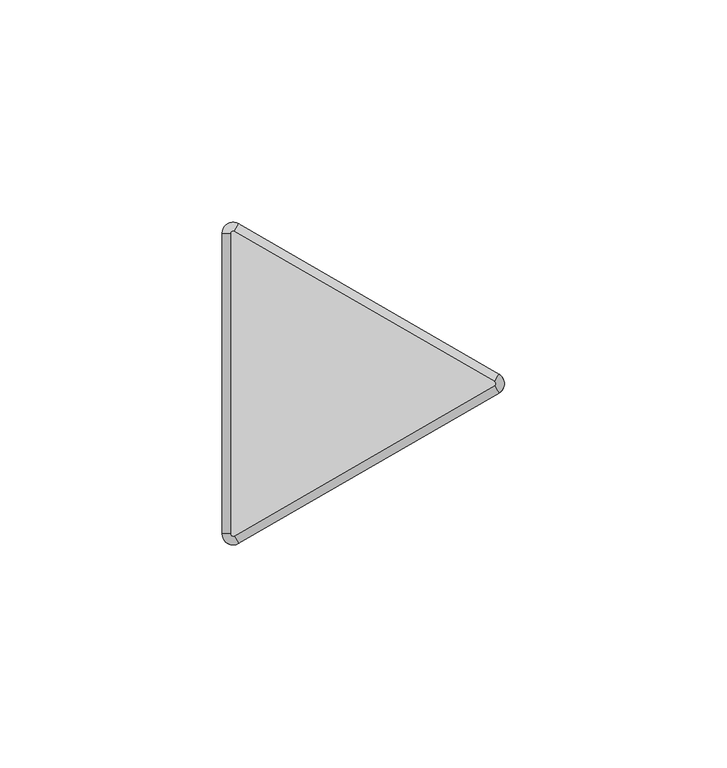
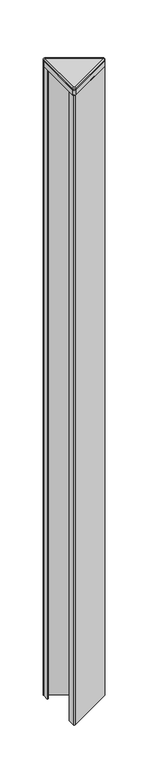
"""IFC4 building model written with IfcOpenShell, lengths in millimetres: furniture geometry, Steelcase - Answer Solution - Panel - 120deg Change-of-Height Trim - Thin : Y Corner - 36H for 66H App."""

import ifcopenshell
import ifcopenshell.guid

model = None  # the IFC model being written
_history = None  # IfcOwnerHistory: only IFC2X3 demands one
_inside = {}  # id of a spatial element -> (the spatial element, [elements in it])
_under = {}  # id of a project, library or spatial element -> (it, [spatial elements below it])
_declared = {}  # id of a project -> (the project, [libraries it declares])
_typed = {}  # id of a type object -> (the type object, [elements of that type])
_made_of = {}  # id of a material, layer set ... -> (it, [elements and type objects made of it])


def new_model(schema):
    """Start an empty IFC model of exactly this schema.

    Asked for "IFC4X3", IfcOpenShell would pick the latest addendum, in which some entities
    have other attributes; the version numbers below select the first issue.
    IFC2X3 requires an IfcOwnerHistory on every rooted entity: one is made here for all.
    """
    global model, _history
    if schema == "IFC4X3":
        model = ifcopenshell.file(schema_version=(4, 3, 0, 0))
    else:
        model = ifcopenshell.file(schema=schema)
    _inside.clear()
    _under.clear()
    _declared.clear()
    _typed.clear()
    _made_of.clear()
    _history = None
    if model.schema == "IFC2X3":
        org = make("IfcOrganization", Name="unknown")
        user = make(
            "IfcPersonAndOrganization",
            ThePerson=make("IfcPerson", FamilyName="unknown"),
            TheOrganization=org,
        )
        app = make(
            "IfcApplication",
            ApplicationDeveloper=org,
            Version="unknown",
            ApplicationFullName="unknown",
            ApplicationIdentifier="unknown",
        )
        _history = make(
            "IfcOwnerHistory",
            OwningUser=user,
            OwningApplication=app,
            ChangeAction="ADDED",
            CreationDate=0,
        )
    return model


def make(cls, **values):
    """One entity of the class cls with the attributes given. An attribute that is None is left unset."""
    return model.create_entity(
        cls, **{name: value for name, value in values.items() if value is not None}
    )


def rooted(cls, **values):
    """An entity with a GlobalId (a new one), such as an element, a storey or a relation."""
    return make(cls, GlobalId=ifcopenshell.guid.new(), OwnerHistory=_history, **values)


def si_unit(unit_type, name, prefix=None):
    """IfcSIUnit, for example si_unit("LENGTHUNIT", "METRE", prefix="MILLI")."""
    return make("IfcSIUnit", UnitType=unit_type, Prefix=prefix, Name=name)


def assignment(units):
    """IfcUnitAssignment: the units of a project."""
    return None if units is None else make("IfcUnitAssignment", Units=units)


def point(xyz):
    """IfcCartesianPoint."""
    return None if xyz is None else make("IfcCartesianPoint", Coordinates=xyz)


def direction(xyz):
    """IfcDirection."""
    return None if xyz is None else make("IfcDirection", DirectionRatios=xyz)


def frame(location, z_axis=None, x_axis=None):
    """IfcAxis2Placement3D, a coordinate frame: its origin and axes. An axis left out is left unset."""
    return make(
        "IfcAxis2Placement3D",
        Location=point(location),
        Axis=direction(z_axis),
        RefDirection=direction(x_axis),
    )


def frame_2d(location, x_axis=None):
    """IfcAxis2Placement2D, a coordinate frame in the plane: its origin and x axis."""
    return make(
        "IfcAxis2Placement2D", Location=point(location), RefDirection=direction(x_axis)
    )


def origin():
    """The frame at (0, 0, 0) with its axes left unset."""
    return frame((0.0, 0.0, 0.0))


def place(relative_to, where):
    """IfcLocalPlacement: puts the frame where relative to a parent placement (None: the world)."""
    return make(
        "IfcLocalPlacement", PlacementRelTo=relative_to, RelativePlacement=where
    )


def context(
    kind, dimensions, precision=None, world=None, true_north=None, identifier=None
):
    """IfcGeometricRepresentationContext, for example the 3D "Model" context."""
    return make(
        "IfcGeometricRepresentationContext",
        ContextIdentifier=identifier,
        ContextType=kind,
        CoordinateSpaceDimension=dimensions,
        Precision=precision,
        WorldCoordinateSystem=world,
        TrueNorth=true_north,
    )


def project(units=None, contexts=None):
    """IfcProject with its units and contexts."""
    return rooted(
        "IfcProject",
        Name="project",
        RepresentationContexts=contexts,
        UnitsInContext=assignment(units),
    )


def spatial(cls, under=None, at=None, **own):
    """A site, building, storey or space (cls), placed at a placement, below another one or the project."""
    s = rooted(cls, ObjectPlacement=at, **own)
    if under is not None:
        _under.setdefault(under.id(), (under, []))[1].append(s)
    return s


def polyline(points):
    """IfcPolyline through the points."""
    return make("IfcPolyline", Points=[point(p) for p in points])


def circle_curve(where, radius):
    """IfcCircle in the frame where."""
    return make("IfcCircle", Position=where, Radius=radius)


def ellipse_curve(where, semi_axis1, semi_axis2):
    """IfcEllipse in the frame where."""
    return make(
        "IfcEllipse", Position=where, SemiAxis1=semi_axis1, SemiAxis2=semi_axis2
    )


def trimmed(basis, trim1, trim2, sense, master):
    """IfcTrimmedCurve: the piece of a basis curve between two trims."""
    return make(
        "IfcTrimmedCurve",
        BasisCurve=basis,
        Trim1=trim1,
        Trim2=trim2,
        SenseAgreement=sense,
        MasterRepresentation=master,
    )


def segment(curve, same_sense, transition):
    """IfcCompositeCurveSegment."""
    return make(
        "IfcCompositeCurveSegment",
        Transition=transition,
        SameSense=same_sense,
        ParentCurve=curve,
    )


def composite_curve(segments, self_intersect=None):
    """IfcCompositeCurve: segments joined end to end."""
    return make("IfcCompositeCurve", Segments=segments, SelfIntersect=self_intersect)


def outline(outer, holes=None, kind="AREA"):
    """IfcArbitraryClosedProfileDef: a profile drawn as a closed curve; with holes, ...WithVoids."""
    if holes is None:
        return make("IfcArbitraryClosedProfileDef", ProfileType=kind, OuterCurve=outer)
    return make(
        "IfcArbitraryProfileDefWithVoids",
        ProfileType=kind,
        OuterCurve=outer,
        InnerCurves=holes,
    )


def extrude(swept, where, along, depth):
    """IfcExtrudedAreaSolid: the profile swept, set in the frame where, extruded along a direction by depth."""
    return make(
        "IfcExtrudedAreaSolid",
        SweptArea=swept,
        Position=where,
        ExtrudedDirection=direction(along),
        Depth=depth,
    )


def shape(context_of_items, identifier, shape_type, items):
    """IfcShapeRepresentation: the items that make up one representation, for example the "Body"."""
    return make(
        "IfcShapeRepresentation",
        ContextOfItems=context_of_items,
        RepresentationIdentifier=identifier,
        RepresentationType=shape_type,
        Items=items,
    )


def source(mapping_origin, context_of_items, identifier, shape_type, items):
    """IfcRepresentationMap: a shape defined once, which mapped items show again and again."""
    return make(
        "IfcRepresentationMap",
        MappingOrigin=mapping_origin,
        MappedRepresentation=shape(context_of_items, identifier, shape_type, items),
    )


def transform(
    local_origin,
    x_axis=None,
    y_axis=None,
    z_axis=None,
    scale=None,
    scale2=None,
    scale3=None,
    uniform=True,
):
    """IfcCartesianTransformationOperator3D, or its non-uniform kind. x_axis, y_axis, z_axis: its Axis1, 2, 3."""
    if uniform:
        return make(
            "IfcCartesianTransformationOperator3D",
            Axis1=direction(x_axis),
            Axis2=direction(y_axis),
            LocalOrigin=point(local_origin),
            Scale=scale,
            Axis3=direction(z_axis),
        )
    return make(
        "IfcCartesianTransformationOperator3DnonUniform",
        Axis1=direction(x_axis),
        Axis2=direction(y_axis),
        LocalOrigin=point(local_origin),
        Scale=scale,
        Axis3=direction(z_axis),
        Scale2=scale2,
        Scale3=scale3,
    )


def mapped(mapping_source, mapping_target):
    """IfcMappedItem: shows the shape of a source again, moved by a transform."""
    return make(
        "IfcMappedItem", MappingSource=mapping_source, MappingTarget=mapping_target
    )


def made_of(thing, what):
    """Note that an element or type object is made of a material, layer set ...; save() writes the relation."""
    if what is not None:
        _made_of.setdefault(what.id(), (what, []))[1].append(thing)
    return thing


def element(
    cls,
    number,
    at=None,
    inside=None,
    cuts=None,
    type_object=None,
    material=None,
    context=None,
    identifier="Body",
    shape_type=None,
    held_by="IfcProductDefinitionShape",
    body=None,
    shapes=None,
    **own,
):
    """One element of the class cls, such as IfcWall. Its Tag is "e" and its number.

    at: its placement. inside: the storey or other place that contains it. cuts: it is an
    opening in that element (IfcRelVoidsElement). A single representation is given by context,
    identifier, shape_type and body (its items); several are given by shapes. held_by: the class
    of the entity that holds the representations. save() writes the other relations.
    """
    e = rooted(cls, Tag="e%d" % number, ObjectPlacement=at, **own)
    if body is not None:
        shapes = [shape(context, identifier, shape_type, body)]
    if shapes is not None:
        e.Representation = make(held_by, Representations=shapes)
    if inside is not None:
        _inside.setdefault(inside.id(), (inside, []))[1].append(e)
    if cuts is not None:
        rooted(
            "IfcRelVoidsElement", RelatingBuildingElement=cuts, RelatedOpeningElement=e
        )
    if type_object is not None:
        _typed.setdefault(type_object.id(), (type_object, []))[1].append(e)
    return made_of(e, material)


def aggregate(whole, parts):
    """IfcRelAggregates: a whole, such as a stair, and the parts it consists of."""
    return rooted("IfcRelAggregates", RelatingObject=whole, RelatedObjects=parts)


def save(model, path):
    """Write the relations noted so far, then the file.

    IfcRelAggregates (storeys below a building ...), IfcRelContainedInSpatialStructure (elements
    in a storey), IfcRelDefinesByType, IfcRelAssociatesMaterial and IfcRelDeclares: one each for
    every whole, place, type object, material and project.
    """
    for whole, parts in _under.values():
        aggregate(whole, parts)
    for where, things in _inside.values():
        rooted(
            "IfcRelContainedInSpatialStructure",
            RelatedElements=things,
            RelatingStructure=where,
        )
    for kind, things in _typed.values():
        rooted("IfcRelDefinesByType", RelatedObjects=things, RelatingType=kind)
    for what, things in _made_of.values():
        rooted("IfcRelAssociatesMaterial", RelatedObjects=things, RelatingMaterial=what)
    for by, libraries in _declared.values():
        rooted("IfcRelDeclares", RelatingContext=by, RelatedDefinitions=libraries)
    model.write(path)


def plane_surface(at):
    """IfcPlane: the flat surface through the origin of the frame at, square to its z axis."""
    return make("IfcPlane", Position=at)


def cylinder_surface(at, radius):
    """IfcCylindricalSurface: all points at the distance radius from the z axis of the frame at."""
    return make("IfcCylindricalSurface", Position=at, Radius=radius)


def revolved_surface(curve, axis_point, axis_direction):
    """IfcSurfaceOfRevolution: the curve turned about the line through axis_point along axis_direction."""
    return make(
        "IfcSurfaceOfRevolution",
        SweptCurve=make("IfcArbitraryOpenProfileDef", ProfileType="CURVE", Curve=curve),
        AxisPosition=make("IfcAxis1Placement", Location=point(axis_point), Axis=direction(axis_direction)),
    )


def advanced_brep(points, edges, surfaces, faces):
    """IfcAdvancedBrep: a solid bounded by faces that lie on surfaces and meet in shared edges.

    An edge is (start, end): straight between two places in points (the first is 0);
    or (start, end, curve); or (start, end, curve, False) where it runs against its curve.
    A face is (place in surfaces, loops), or (place, loops, False) where it looks against
    its surface's normal. A loop lists edges by number (the first is 1), with a minus sign
    where the edge is run from its end to its start. The first loop is the outer one.
    """
    corners = [point(p) for p in points]
    vertices = [make("IfcVertexPoint", VertexGeometry=c) for c in corners]
    made = []
    for start, end, *more in edges:
        made.append(
            make(
                "IfcEdgeCurve",
                EdgeStart=vertices[start],
                EdgeEnd=vertices[end],
                EdgeGeometry=more[0] if more else make("IfcPolyline", Points=[corners[start], corners[end]]),
                SameSense=more[1] if len(more) > 1 else True,
            )
        )
    hull = []
    for where, loops, *sense in faces:
        bounds = []
        for j, loop in enumerate(loops):
            ring = [make("IfcOrientedEdge", EdgeElement=made[abs(k) - 1], Orientation=k > 0) for k in loop]
            bounds.append(
                make(
                    "IfcFaceOuterBound" if j == 0 else "IfcFaceBound",
                    Bound=make("IfcEdgeLoop", EdgeList=ring),
                    Orientation=True,
                )
            )
        hull.append(make("IfcAdvancedFace", Bounds=bounds, FaceSurface=surfaces[where], SameSense=sense[0] if sense else True))
    return make("IfcAdvancedBrep", Outer=make("IfcClosedShell", CfsFaces=hull))


def furniture_43767490(model_context):
    return source(origin(), model_context, "Body", "SolidModel", [
        advanced_brep(
        [(-10.518645, -37.3335529, 1680.8628978), (-14.2052101, -35.2051135, 1680.8628978), (-14.2052101, -35.2051135, 1679.9164663), (-10.518645, -37.3335529, 1679.9164663), (-11.46175, -35.7000471, 1682.75), (-12.319, -35.2051135, 1682.75), (-11.46175, -35.7000471, 1679.9164663), (-12.319, -35.2051135, 1679.9164663), (48.0429908, -3.5229767, 1679.9164663), (48.0429908, -3.5229767, 1680.8628978), (47.0998858, -1.8894709, 1682.75), (47.0998858, -1.8894709, 1679.9164663), (48.0429908, 0.733902, 1680.8628978), (48.0429908, 0.733902, 1679.9164663), (47.0998858, -0.8996038, 1682.75), (47.0998858, -0.8996038, 1679.9164663), (-10.518645, 34.5444782, 1679.9164663), (-14.2052101, 32.4160388, 1679.9164663), (-11.46175, 32.9109723, 1679.9164663), (-12.319, 32.4160388, 1679.9164663), (-10.518645, 34.5444782, 1680.8628978), (-11.46175, 32.9109723, 1682.75), (-14.2052101, 32.4160388, 1680.8628978), (-12.319, 32.4160388, 1682.75)],
        [
            (0, 1, circle_curve(frame((-11.7475, -35.2051135, 1680.8628978), z_axis=(0.0, 0.0, -1.0), x_axis=(-1.0, 0.0, 0.0)), 2.4577101)),
            (1, 2),
            (2, 3, circle_curve(frame((-11.7475, -35.2051135, 1679.9164663), z_axis=(0.0, 0.0, 1.0), x_axis=(-1.0, 0.0, 0.0)), 2.4577101)),
            (3, 0),
            (4, 5, circle_curve(frame((-11.7475, -35.2051135, 1682.75), z_axis=(0.0, 0.0, -1.0), x_axis=(-1.0, 0.0, 0.0)), 0.5715)),
            (5, 1, circle_curve(frame((-12.3181076, -35.2051135, 1680.8628978), z_axis=(0.0, -1.0, 0.0), x_axis=(1.0, 0.0, 0.0)), 1.8871024)),
            (0, 4, circle_curve(frame((-11.4621962, -35.6992743, 1680.8628978), z_axis=(-0.8660254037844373, -0.5000000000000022, 0.0), x_axis=(-0.5000000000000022, 0.8660254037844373, 0.0)), 1.8871024)),
            (6, 7, circle_curve(frame((-11.7475, -35.2051135, 1679.9164663), z_axis=(0.0, 0.0, -1.0), x_axis=(-1.0, 0.0, 0.0)), 0.5715)),
            (7, 5),
            (4, 6),
            (3, 8),
            (8, 9),
            (9, 0),
            (9, 10, circle_curve(frame((47.0994396, -1.8886981, 1680.8628978), z_axis=(-0.8660254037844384, -0.5000000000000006, 0.0), x_axis=(-0.5000000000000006, 0.8660254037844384, 0.0)), 1.8871024)),
            (10, 4),
            (10, 11),
            (11, 6),
            (12, 9, circle_curve(frame((46.8141358, -1.3945374, 1680.8628978), z_axis=(0.0, 0.0, -1.0), x_axis=(0.4999999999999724, -0.8660254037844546, 0.0)), 2.4577101)),
            (8, 13, circle_curve(frame((46.8141358, -1.3945374, 1679.9164663), z_axis=(0.0, 0.0, 1.0), x_axis=(0.4999999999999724, -0.8660254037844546, 0.0)), 2.4577101)),
            (13, 12),
            (14, 10, circle_curve(frame((46.8141358, -1.3945374, 1682.75), z_axis=(0.0, 0.0, -1.0), x_axis=(0.4999999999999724, -0.8660254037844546, 0.0)), 0.5715)),
            (12, 14, circle_curve(frame((47.0994396, -0.9003766, 1680.8628978), z_axis=(0.8660254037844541, -0.49999999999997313, 0.0), x_axis=(-0.49999999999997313, -0.8660254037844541, 0.0)), 1.8871024)),
            (15, 11, circle_curve(frame((46.8141358, -1.3945374, 1679.9164663), z_axis=(0.0, 0.0, -1.0), x_axis=(0.4999999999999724, -0.8660254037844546, 0.0)), 0.5715)),
            (14, 15),
            (16, 13),
            (2, 17),
            (17, 16, circle_curve(frame((-11.7475, 32.4160388, 1679.9164663), z_axis=(0.0, 0.0, -1.0), x_axis=(0.500000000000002, 0.8660254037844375, 0.0)), 2.4577101)),
            (15, 18),
            (18, 19, circle_curve(frame((-11.7475, 32.4160388, 1679.9164663), z_axis=(0.0, 0.0, 1.0), x_axis=(0.500000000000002, 0.8660254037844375, 0.0)), 0.5715)),
            (19, 7),
            (16, 20),
            (20, 12),
            (20, 21, circle_curve(frame((-11.4621962, 32.9101995, 1680.8628978), z_axis=(0.8660254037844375, -0.5000000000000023, 0.0), x_axis=(-0.5000000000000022, -0.8660254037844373, 0.0)), 1.8871024)),
            (21, 14),
            (21, 18),
            (22, 20, circle_curve(frame((-11.7475, 32.4160388, 1680.8628978), z_axis=(0.0, 0.0, -1.0), x_axis=(0.500000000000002, 0.8660254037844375, 0.0)), 2.4577101)),
            (17, 22),
            (23, 21, circle_curve(frame((-11.7475, 32.4160388, 1682.75), z_axis=(0.0, 0.0, -1.0), x_axis=(0.500000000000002, 0.8660254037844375, 0.0)), 0.5715)),
            (22, 23, circle_curve(frame((-12.3181076, 32.4160388, 1680.8628978), z_axis=(0.0, 1.0, 0.0), x_axis=(1.0, 0.0, 0.0)), 1.8871024)),
            (23, 19),
            (1, 22),
            (5, 23),
        ],
        [
            cylinder_surface(frame((-11.7475, -35.2051135, 0.0), z_axis=(0.0, 0.0, 1.0), x_axis=(-1.0, 0.0, 0.0)), 2.4577101),
            revolved_surface(trimmed(ellipse_curve(frame((-12.3181076, -35.2051135, 1680.8628978), z_axis=(0.0, 1.0, 0.0), x_axis=(1.0, 0.0, 0.0)), 1.8871024, 1.8871024), [point((-14.2052101, -35.2051135, 1680.8628978))], [point((-12.319, -35.2051135, 1682.75))], True, "CARTESIAN"), (-11.7475, -35.2051135, 0.0), (0.0, 0.0, 1.0)),
            revolved_surface(polyline([(-12.319, -35.2051135, 1682.75), (-12.319, -35.2051135, 1679.9164663)]), (-11.7475, -35.2051135, 0.0), (0.0, 0.0, 1.0)),
            plane_surface(frame((-10.518645, -37.3335529, 1679.9164663), z_axis=(0.5000000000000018, -0.8660254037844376, 0.0), x_axis=(0.8660254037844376, 0.5000000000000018, 0.0))),
            cylinder_surface(frame((-11.4621962, -35.6992743, 1680.8628978), z_axis=(-0.8660254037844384, -0.5000000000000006, 0.0), x_axis=(-0.5000000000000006, 0.8660254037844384, 0.0)), 1.8871024),
            plane_surface(frame((-11.46175, -35.7000471, 1682.75), z_axis=(-0.4999999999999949, 0.8660254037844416, 0.0), x_axis=(0.8660254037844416, 0.4999999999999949, 0.0))),
            cylinder_surface(frame((46.8141358, -1.3945374, 0.0), z_axis=(0.0, 0.0, 1.0), x_axis=(0.4999999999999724, -0.8660254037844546, 0.0)), 2.4577101),
            revolved_surface(trimmed(ellipse_curve(frame((47.0994396, -1.8886981, 1680.8628978), z_axis=(-0.8660254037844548, -0.499999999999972, 0.0), x_axis=(-0.499999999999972, 0.8660254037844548, 0.0)), 1.8871024, 1.8871024), [point((48.0429908, -3.5229767, 1680.8628978))], [point((47.0998858, -1.8894709, 1682.75))], True, "CARTESIAN"), (46.8141358, -1.3945374, 0.0), (0.0, 0.0, 1.0)),
            revolved_surface(polyline([(47.09988579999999, -1.8894709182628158, 1682.75), (47.09988579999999, -1.8894709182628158, 1679.9164663)]), (46.8141358, -1.3945374, 0.0), (0.0, 0.0, 1.0)),
            plane_surface(frame((47.0998858, -0.8996038, 1679.9164663), z_axis=(0.0, 0.0, -1.0), x_axis=(-0.8660254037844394, 0.4999999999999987, 0.0))),
            plane_surface(frame((48.0429908, 0.733902, 1679.9164663), z_axis=(0.5000000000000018, 0.8660254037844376, 0.0), x_axis=(-0.8660254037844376, 0.5000000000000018, 0.0))),
            cylinder_surface(frame((47.0994396, -0.9003766, 1680.8628978), z_axis=(0.8660254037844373, -0.5000000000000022, 0.0), x_axis=(-0.5000000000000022, -0.8660254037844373, 0.0)), 1.8871024),
            plane_surface(frame((47.0998858, -0.8996038, 1682.75), z_axis=(-0.4999999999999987, -0.8660254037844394, 0.0), x_axis=(-0.8660254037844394, 0.4999999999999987, 0.0))),
            cylinder_surface(frame((-11.7475, 32.4160388, 0.0), z_axis=(0.0, 0.0, 1.0), x_axis=(0.500000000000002, 0.8660254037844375, 0.0)), 2.4577101),
            revolved_surface(trimmed(ellipse_curve(frame((-11.4621962, 32.9101995, 1680.8628978), z_axis=(0.866025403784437, -0.5000000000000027, 0.0), x_axis=(-0.5000000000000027, -0.866025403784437, 0.0)), 1.8871024, 1.8871024), [point((-10.518645, 34.5444782, 1680.8628978))], [point((-11.46175, 32.9109723, 1682.75))], True, "CARTESIAN"), (-11.7475, 32.4160388, 0.0), (0.0, 0.0, 1.0)),
            revolved_surface(polyline([(-11.461749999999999, 32.91097231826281, 1682.75), (-11.461749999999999, 32.91097231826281, 1679.9164663)]), (-11.7475, 32.4160388, 0.0), (0.0, 0.0, 1.0)),
            plane_surface(frame((-14.2052101, 32.4160388, 1679.9164663), z_axis=(-1.0, 0.0, 0.0), x_axis=(0.0, -1.0, 0.0))),
            cylinder_surface(frame((-12.3181076, 32.4160388, 1680.8628978), z_axis=(0.0, 1.0, 0.0), x_axis=(1.0, 0.0, 0.0)), 1.8871024),
            plane_surface(frame((-12.319, 32.4160388, 1682.75), z_axis=(1.0, 0.0, 0.0), x_axis=(0.0, -1.0, 0.0))),
        ],
        [
            (0, [[1, 2, 3, 4]]),
            (1, [[5, 6, -1, 7]]),
            (2, [[8, 9, -5, 10]]),
            (3, [[-4, 11, 12, 13]]),
            (4, [[-7, -13, 14, 15]]),
            (5, [[-10, -15, 16, 17]]),
            (6, [[18, -12, 19, 20]]),
            (7, [[21, -14, -18, 22]]),
            (8, [[23, -16, -21, 24]]),
            (9, [[25, -19, -11, -3, 26, 27], [-8, -17, -23, 28, 29, 30]]),
            (10, [[-20, -25, 31, 32]]),
            (11, [[-22, -32, 33, 34]]),
            (12, [[-24, -34, 35, -28]]),
            (13, [[36, -31, -27, 37]]),
            (14, [[38, -33, -36, 39]]),
            (15, [[-29, -35, -38, 40]]),
            (16, [[-37, -26, -2, 41]]),
            (17, [[-39, -41, -6, 42]]),
            (18, [[-40, -42, -9, -30]]),
        ],
    ),
        extrude(outline(composite_curve([segment(trimmed(circle_curve(frame_2d((47.9522001, -1.3945374)), 1.2978651), [point((48.6011327, -0.2705532))], [point((48.6011327, -2.5185215))], False, "CARTESIAN"), True, "CONTINUOUS"), segment(polyline([(48.6011327, -2.5185215), (-11.6879343, -37.3264306)]), True, "CONTINUOUS"), segment(trimmed(circle_curve(frame_2d((-12.3300896, -36.2141852)), 1.2843104), [point((-11.6879343, -37.3264306))], [point((-13.6144, -36.2141852))], False, "CARTESIAN"), True, "CONTINUOUS"), segment(polyline([(-13.6144, -36.2141852), (-13.6144, -27.3303775), (-12.7, -27.3303775), (-12.7, -36.8548888), (48.7191304, -1.3945374), (-12.7, 34.0658141), (-12.7, 24.5413027), (-13.6144, 24.5413027), (-13.6144, 33.4106259)]), True, "CONTINUOUS"), segment(trimmed(circle_curve(frame_2d((-12.3217269, 33.4106259)), 1.2926731), [point((-13.6144, 33.4106259))], [point((-11.6753904, 34.5301136))], False, "CARTESIAN"), True, "CONTINUOUS"), segment(polyline([(-11.6753904, 34.5301136), (48.6011327, -0.2705532)]), True, "CONTINUOUS")], self_intersect=False)), frame((0.0, 0.0, 768.35), z_axis=(0.0, 0.0, 1.0), x_axis=(1.0, 0.0, 0.0)), (0.0, 0.0, 1.0), 904.24),
        extrude(outline(composite_curve([segment(trimmed(circle_curve(frame_2d((46.8261011, -1.3945374)), 0.5655173), [point((47.1088598, -0.904785))], [point((47.1088598, -1.8842897))], False, "CARTESIAN"), True, "CONTINUOUS"), segment(polyline([(47.1088598, -1.8842897), (-11.4505119, -35.6935587)]), True, "CONTINUOUS"), segment(trimmed(circle_curve(frame_2d((-11.7400079, -35.1921369)), 0.5789921), [point((-11.4505119, -35.6935587))], [point((-12.319, -35.1921369))], False, "CARTESIAN"), True, "CONTINUOUS"), segment(polyline([(-12.319, -35.1921369), (-12.319, 32.3985888)]), True, "CONTINUOUS"), segment(trimmed(circle_curve(frame_2d((-11.7374252, 32.3985888)), 0.5815748), [point((-12.319, 32.3985888))], [point((-11.4466378, 32.9022473))], False, "CARTESIAN"), True, "CONTINUOUS"), segment(polyline([(-11.4466378, 32.9022473), (47.1088598, -0.904785)]), True, "CONTINUOUS")], self_intersect=False)), frame((0.0, 0.0, 1679.9164663), z_axis=(0.0, 0.0, 1.0), x_axis=(1.0, 0.0, 0.0)), (0.0, 0.0, 1.0), 2.8335337),
        extrude(outline(composite_curve([segment(trimmed(circle_curve(frame_2d((46.8140443, -1.3945374)), 2.4577558), [point((48.0429222, 0.7339416))], [point((48.0429222, -3.5230163))], False, "CARTESIAN"), True, "CONTINUOUS"), segment(polyline([(48.0429222, -3.5230163), (-10.518058, -37.333214)]), True, "CONTINUOUS"), segment(trimmed(circle_curve(frame_2d((-11.7471087, -35.2044357)), 2.4581014), [point((-10.518058, -37.333214))], [point((-14.2052101, -35.2044357))], False, "CARTESIAN"), True, "CONTINUOUS"), segment(polyline([(-14.2052101, -35.2044357), (-14.2052101, 32.4160388)]), True, "CONTINUOUS"), segment(trimmed(circle_curve(frame_2d((-11.7475, 32.4160388)), 2.4577101), [point((-14.2052101, 32.4160388))], [point((-10.518645, 34.5444782))], False, "CARTESIAN"), True, "CONTINUOUS"), segment(polyline([(-10.518645, 34.5444782), (48.0429222, 0.7339416)]), True, "CONTINUOUS")], self_intersect=False)), frame((0.0, 0.0, 1672.59), z_axis=(0.0, 0.0, 1.0), x_axis=(1.0, 0.0, 0.0)), (0.0, 0.0, 1.0), 7.3264663),
    ])


if __name__ == "__main__":
    model = new_model("IFC4")
    model_context = context("Model", 3, world=origin())
    ifc_project = project(units=[si_unit("LENGTHUNIT", "METRE", prefix="MILLI")], contexts=[model_context])
    site = spatial("IfcSite", under=ifc_project)
    building = spatial("IfcBuilding", under=site)
    placement = place(None, origin())
    furniture_shape = furniture_43767490(model_context)
    element("IfcFurniture", 1, ObjectType="Steelcase - Answer Solution - Panel - 120deg Change-of-Height Trim - Thin : Y Corner - 36H for 66H App", at=placement, inside=building, context=model_context, shape_type="MappedRepresentation", body=[
        mapped(furniture_shape, transform((0.0, 0.0, 0.0), x_axis=(1.0, 0.0, 0.0), y_axis=(0.0, 1.0, 0.0), z_axis=(0.0, 0.0, 1.0))),
    ])
    save(model, "model.ifc")
